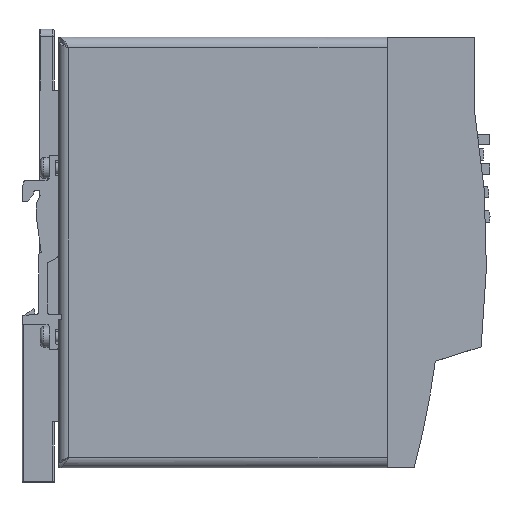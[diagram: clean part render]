
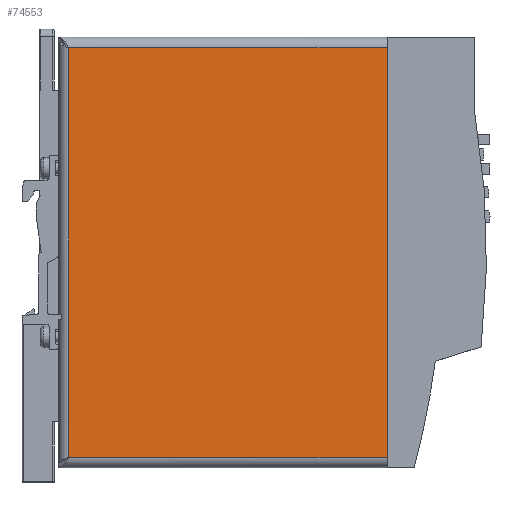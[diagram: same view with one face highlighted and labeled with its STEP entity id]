
A CAD part, left-side view. The second image highlights one B-rep face of the part: STEP entity #74553.
In plain terms, the highlighted planar face has unit normal (-1, 0, 0).
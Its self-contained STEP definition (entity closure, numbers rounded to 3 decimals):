
#3440=PLANE('',#78815);
#6562=FACE_OUTER_BOUND('',#11175,.T.);
#11175=EDGE_LOOP('',(#55076,#55077,#55078,#55079));
#18042=LINE('',#107870,#26677);
#18047=LINE('',#107924,#26682);
#18051=LINE('',#108001,#26686);
#18056=LINE('',#108040,#26691);
#26677=VECTOR('',#86610,10.);
#26682=VECTOR('',#86625,10.);
#26686=VECTOR('',#86635,10.);
#26691=VECTOR('',#86652,10.);
#36539=VERTEX_POINT('',#107867);
#36540=VERTEX_POINT('',#107869);
#36543=VERTEX_POINT('',#107923);
#36545=VERTEX_POINT('',#108000);
#43886=EDGE_CURVE('',#36540,#36539,#18042,.T.);
#43895=EDGE_CURVE('',#36543,#36540,#18047,.T.);
#43903=EDGE_CURVE('',#36545,#36543,#18051,.T.);
#43911=EDGE_CURVE('',#36545,#36539,#18056,.T.);
#55076=ORIENTED_EDGE('',*,*,#43886,.T.);
#55077=ORIENTED_EDGE('',*,*,#43911,.F.);
#55078=ORIENTED_EDGE('',*,*,#43903,.T.);
#55079=ORIENTED_EDGE('',*,*,#43895,.T.);
#74553=ADVANCED_FACE('',(#6562),#3440,.F.);
#78815=AXIS2_PLACEMENT_3D('',#108042,#86655,#86656);
#86610=DIRECTION('',(0.,-1.,0.));
#86625=DIRECTION('',(0.,0.,-1.));
#86635=DIRECTION('',(0.,1.,0.));
#86652=DIRECTION('',(0.,0.,-1.));
#86655=DIRECTION('center_axis',(1.,0.,0.));
#86656=DIRECTION('ref_axis',(0.,0.,-1.));
#107867=CARTESIAN_POINT('',(-26.,-94.6,-59.));
#107869=CARTESIAN_POINT('',(-26.,-3.,-59.));
#107870=CARTESIAN_POINT('',(-26.,-25.15,-59.));
#107923=CARTESIAN_POINT('',(-26.,-3.,59.));
#107924=CARTESIAN_POINT('',(-26.,-3.,29.5));
#108000=CARTESIAN_POINT('',(-26.,-94.6,59.));
#108001=CARTESIAN_POINT('',(-26.,-70.95,59.));
#108040=CARTESIAN_POINT('',(-26.,-94.6,-62.));
#108042=CARTESIAN_POINT('Origin',(-26.,-47.3,0.));
